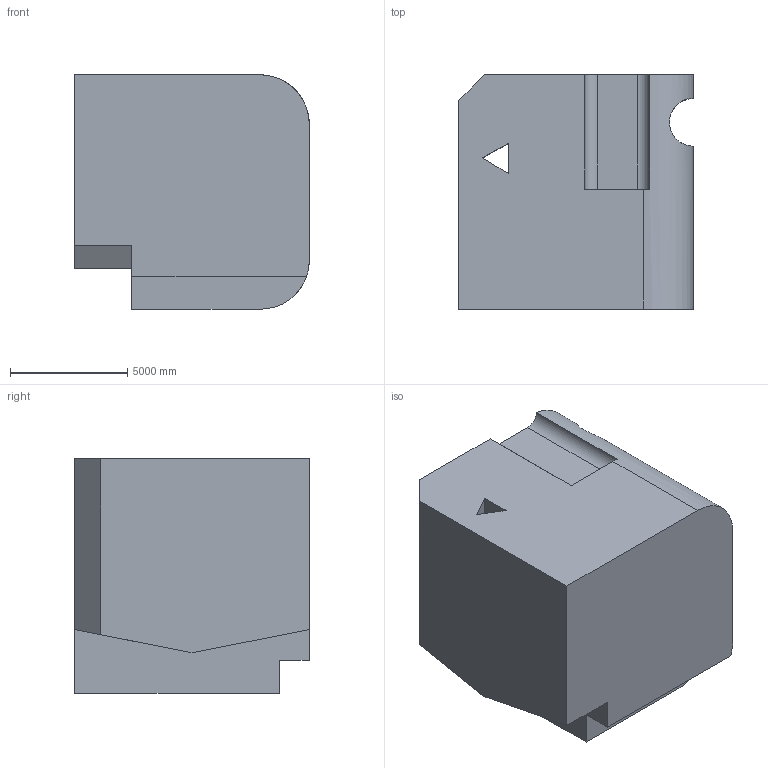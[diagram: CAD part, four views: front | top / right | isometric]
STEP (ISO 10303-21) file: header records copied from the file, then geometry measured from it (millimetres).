
FILE_DESCRIPTION (( 'STEP AP203' ), '1' );
FILE_NAME ('1929.STEP', '2022-08-26T13:39:11', ( 'user' ), ( '' ), 'SwSTEP 2.0', 'SolidWorks 2021', '' );
FILE_SCHEMA (( 'CONFIG_CONTROL_DESIGN' ));
Length unit declared in the file: centimetre
Products named in the file (1): 1929
Bounding box: 10000 x 10000 x 10000 mm (x, y, z)
Volume: 850381853986 mm3; surface area: 669342186.1 mm2
Topology: 1 solids, 1 shells, 34 faces, 90 edges, 60 vertices
Faces by surface type: plane 22, cylinder 12
Entity records: 1651 total; most frequent: CARTESIAN_POINT 712, ORIENTED_EDGE 180, DIRECTION 176, EDGE_CURVE 90, LINE 60, VERTEX_POINT 60, VECTOR 60, AXIS2_PLACEMENT_3D 58
